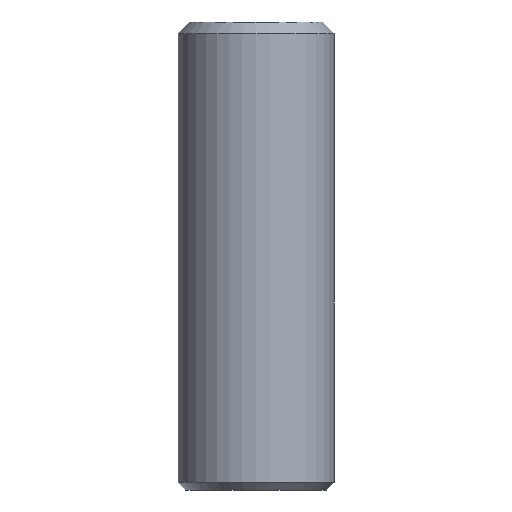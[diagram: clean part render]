
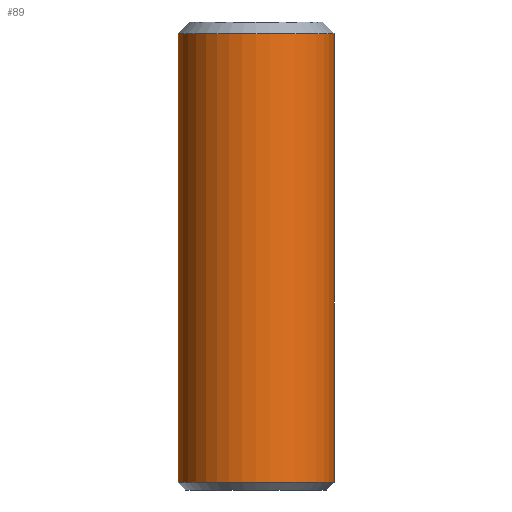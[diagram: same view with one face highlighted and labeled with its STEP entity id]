
A CAD part, front view. The second image highlights one B-rep face of the part: STEP entity #89.
In plain terms, the highlighted cylindrical face has radius 10 mm (diameter 20 mm), a full revolution.
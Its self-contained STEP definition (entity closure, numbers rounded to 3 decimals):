
#23=FACE_OUTER_BOUND('',#29,.T.);
#29=EDGE_LOOP('',(#73,#74,#75,#76));
#37=LINE('',#165,#41);
#41=VECTOR('',#139,10.);
#45=CIRCLE('',#111,10.);
#47=CIRCLE('',#114,10.);
#51=VERTEX_POINT('',#157);
#53=VERTEX_POINT('',#163);
#58=EDGE_CURVE('',#51,#51,#45,.T.);
#61=EDGE_CURVE('',#53,#53,#47,.T.);
#62=EDGE_CURVE('',#53,#51,#37,.T.);
#73=ORIENTED_EDGE('',*,*,#61,.F.);
#74=ORIENTED_EDGE('',*,*,#62,.T.);
#75=ORIENTED_EDGE('',*,*,#58,.F.);
#76=ORIENTED_EDGE('',*,*,#62,.F.);
#86=CYLINDRICAL_SURFACE('',#113,10.);
#89=ADVANCED_FACE('',(#23),#86,.T.);
#111=AXIS2_PLACEMENT_3D('',#158,#130,#131);
#113=AXIS2_PLACEMENT_3D('',#162,#135,#136);
#114=AXIS2_PLACEMENT_3D('',#164,#137,#138);
#130=DIRECTION('center_axis',(0.,0.,-1.));
#131=DIRECTION('ref_axis',(-1.,0.,0.));
#135=DIRECTION('center_axis',(0.,0.,1.));
#136=DIRECTION('ref_axis',(-1.,0.,0.));
#137=DIRECTION('center_axis',(0.,0.,1.));
#138=DIRECTION('ref_axis',(-1.,0.,0.));
#139=DIRECTION('',(0.,0.,-1.));
#157=CARTESIAN_POINT('',(-85.,95.,5.));
#158=CARTESIAN_POINT('Origin',(-95.,95.,5.));
#162=CARTESIAN_POINT('Origin',(-95.,95.,4.));
#163=CARTESIAN_POINT('',(-85.,95.,62.5));
#164=CARTESIAN_POINT('Origin',(-95.,95.,62.5));
#165=CARTESIAN_POINT('',(-85.,95.,4.));
